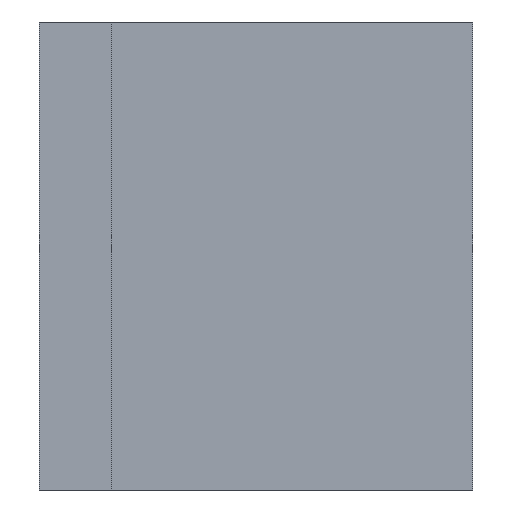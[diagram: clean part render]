
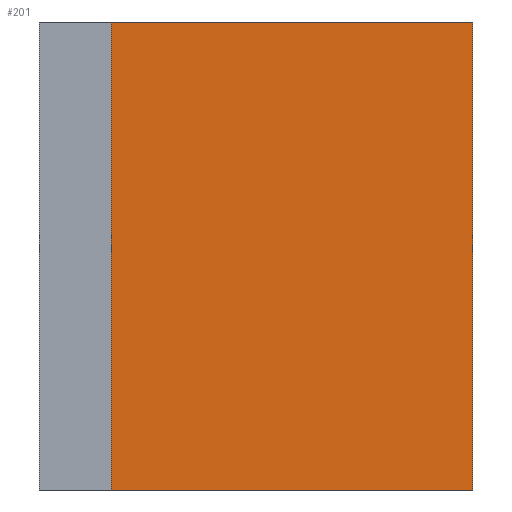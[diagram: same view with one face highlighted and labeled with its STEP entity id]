
A CAD part, front view. The second image highlights one B-rep face of the part: STEP entity #201.
In plain terms, the highlighted planar face has unit normal (0, -1, 0).
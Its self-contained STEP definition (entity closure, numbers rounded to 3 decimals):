
#100=CARTESIAN_POINT('',(-0.9,-2.6,0.));
#101=VERTEX_POINT('',#100);
#102=CARTESIAN_POINT('',(7.6,-2.6,0.));
#103=VERTEX_POINT('',#102);
#108=CARTESIAN_POINT('',(-0.9,-2.6,11.));
#109=VERTEX_POINT('',#108);
#110=CARTESIAN_POINT('',(7.6,-2.6,11.));
#111=VERTEX_POINT('',#110);
#134=DIRECTION('',(1.0,0.0,0.0));
#135=VECTOR('',#134,8.5);
#136=CARTESIAN_POINT('',(-0.9,-2.6,0.));
#137=LINE('',#136,#135);
#138=EDGE_CURVE('',#101,#103,#137,.T.);
#148=DIRECTION('',(1.0,0.0,0.0));
#149=VECTOR('',#148,8.5);
#150=CARTESIAN_POINT('',(-0.9,-2.6,11.));
#151=LINE('',#150,#149);
#152=EDGE_CURVE('',#109,#111,#151,.T.);
#180=ORIENTED_EDGE('',*,*,#138,.T.);
#181=DIRECTION('',(0.0,0.0,1.0));
#182=VECTOR('',#181,11.);
#183=CARTESIAN_POINT('',(7.6,-2.6,0.));
#184=LINE('',#183,#182);
#185=EDGE_CURVE('',#103,#111,#184,.T.);
#186=ORIENTED_EDGE('',*,*,#185,.T.);
#187=ORIENTED_EDGE('',*,*,#152,.F.);
#188=DIRECTION('',(0.0,0.0,1.0));
#189=VECTOR('',#188,11.);
#190=CARTESIAN_POINT('',(-0.9,-2.6,0.));
#191=LINE('',#190,#189);
#192=EDGE_CURVE('',#101,#109,#191,.T.);
#193=ORIENTED_EDGE('',*,*,#192,.F.);
#194=EDGE_LOOP('',(#180,#186,#187,#193));
#195=FACE_OUTER_BOUND('',#194,.T.);
#196=CARTESIAN_POINT('',(-0.9,-2.6,0.));
#197=DIRECTION('',(0.0,-1.0,0.0));
#198=DIRECTION('',(1.0,0.0,0.0));
#199=AXIS2_PLACEMENT_3D('',#196,#197,#198);
#200=PLANE('',#199);
#201=ADVANCED_FACE('',(#195),#200,.T.);
